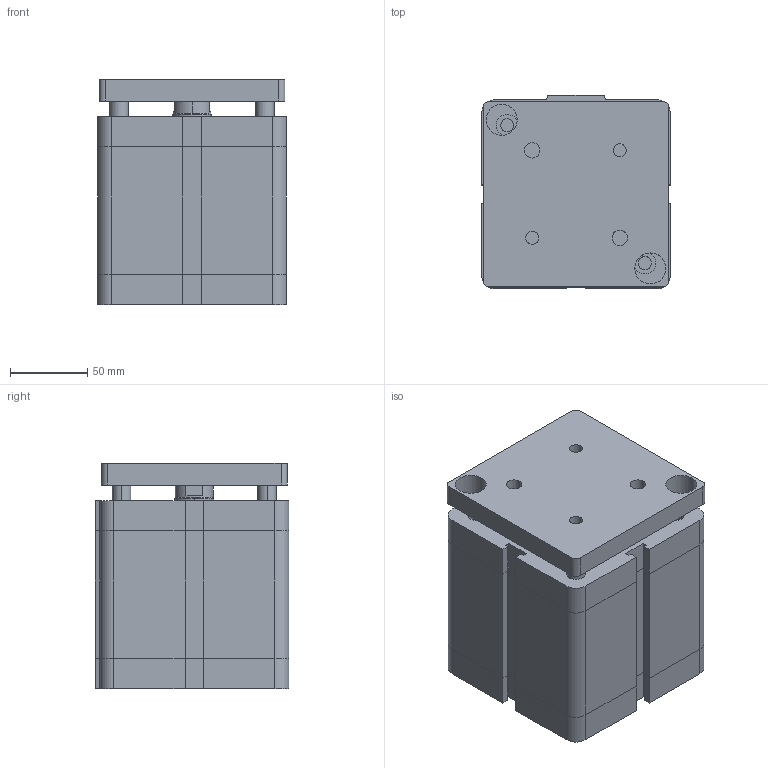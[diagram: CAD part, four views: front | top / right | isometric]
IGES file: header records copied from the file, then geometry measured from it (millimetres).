
Global section: file name: No Iges File Name specified; native system: Autodesk Inventor 2009; preprocessor: AutoDesk Inventor Iges Exporter R2009; author: maffial1; date: 20090420.201307; units: millimetre
Bounding box: 122 x 125 x 145.5 mm (x, y, z)
Volume: 1970814.8 mm3; surface area: 158351.9 mm2
Topology: 2 solids, 2 shells, 212 faces, 486 edges, 298 vertices
Faces by surface type: plane 111, bspline 67, cylinder 26, cone 8
